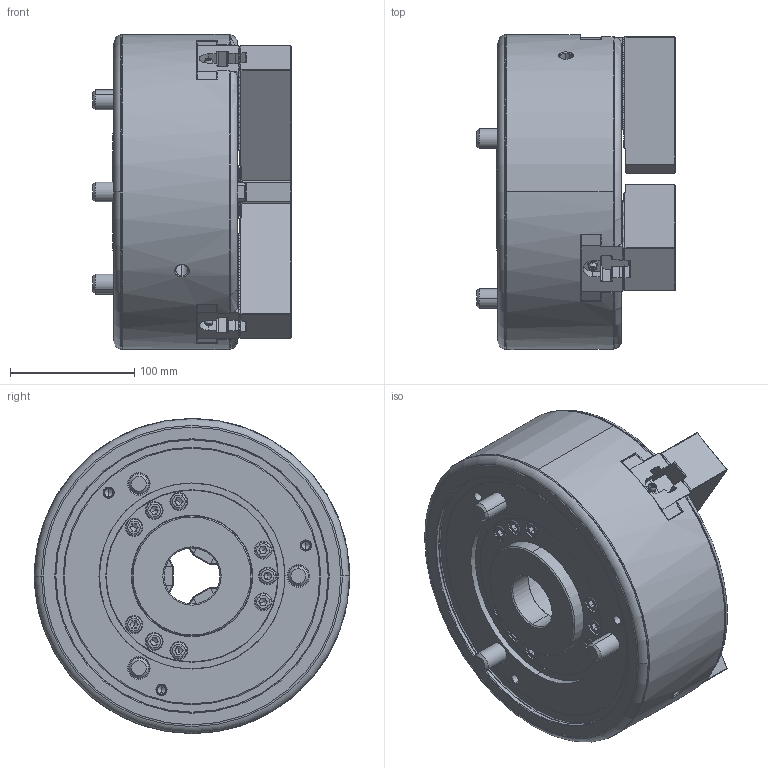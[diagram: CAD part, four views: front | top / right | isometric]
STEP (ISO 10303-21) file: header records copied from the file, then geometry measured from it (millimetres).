
FILE_DESCRIPTION (( 'STEP AP203' ), '1' );
FILE_NAME ('DEV-BR10-HOL.STEP', '2024-03-06T07:41:35', ( '' ), ( '' ), 'SwSTEP 2.0', 'SolidWorks 2022', '' );
FILE_SCHEMA (( 'CONFIG_CONTROL_DESIGN' ));
Products named in the file (9): BR10-Nishi02 ドローナット_ﾃﾞﾌｫﾙﾄ(外観用); Bアナツキ M16×100; Bアナツキボタン M6×10_デフォルト; BR10-Nishi05 Plus-Tナット改1_61P417262-1 B-210 Tﾅｯﾄ-ﾃﾞﾌｫﾙﾄ; 61P367863-0 BB210 カバー; Bアナツキ M12×30; DEV-BR10-HOL; P31633-7 SB10B1 ソフトジョー_ﾃﾞﾌｫﾙﾄ(外観用); Part91^DEV-BR10-クミタテ
Assembly tree (21 placements, depth 2):
  DEV-BR10-HOL
    BR10-Nishi02 ドローナット_ﾃﾞﾌｫﾙﾄ(外観用)
    P31633-7 SB10B1 ソフトジョー_ﾃﾞﾌｫﾙﾄ(外観用)  x3
    BR10-Nishi05 Plus-Tナット改1_61P417262-1 B-210 Tﾅｯﾄ-ﾃﾞﾌｫﾙﾄ  x3
    61P367863-0 BB210 カバー
    Bアナツキ M12×30  x6
    Bアナツキボタン M6×10_デフォルト  x3
    Bアナツキ M16×100  x3
    Part91^DEV-BR10-クミタテ
Bounding box: 160.2 x 254 x 254 mm (x, y, z)
Volume: 4812869.8 mm3; surface area: 460807.6 mm2
Topology: 21 solids, 27 shells, 4050 faces, 11101 edges, 7174 vertices
Faces by surface type: plane 3050, cylinder 432, cone 346, bspline 120, torus 88, sphere 14
Entity records: 97343 total; most frequent: CARTESIAN_POINT 22524, ORIENTED_EDGE 15872, DIRECTION 14313, EDGE_CURVE 7936, LINE 6247, VECTOR 6247, VERTEX_POINT 5166, AXIS2_PLACEMENT_3D 4033
